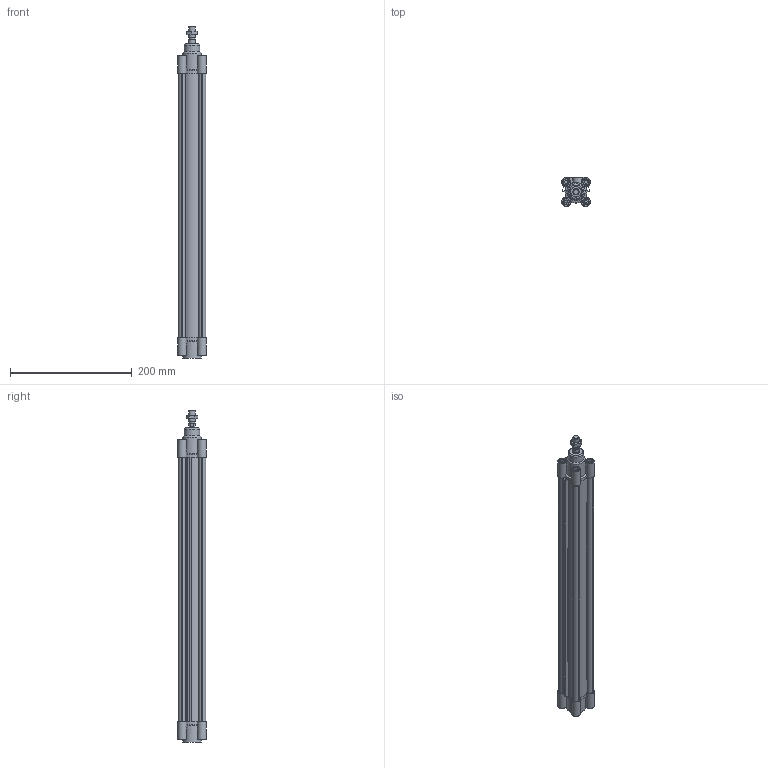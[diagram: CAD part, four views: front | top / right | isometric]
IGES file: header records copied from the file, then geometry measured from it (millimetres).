
Global section: file name: No Iges File Name specified; native system: Autodesk Inventor 2012; preprocessor: AutoDesk Inventor Iges Exporter R2012; author: pilonfr1; date: 20120128.095048; units: millimetre
Bounding box: 47 x 47 x 546.5 mm (x, y, z)
Volume: 420695.2 mm3; surface area: 259076.8 mm2
Topology: 5 solids, 5 shells, 316 faces, 788 edges, 522 vertices
Faces by surface type: plane 200, cylinder 54, revolution 39, cone 22, torus 1
Full cylindrical faces by diameter (mm): 8.8 x1, 10 x9, 11.5 x1, 12 x1, 26 x1, 30 x2, 32 x3
